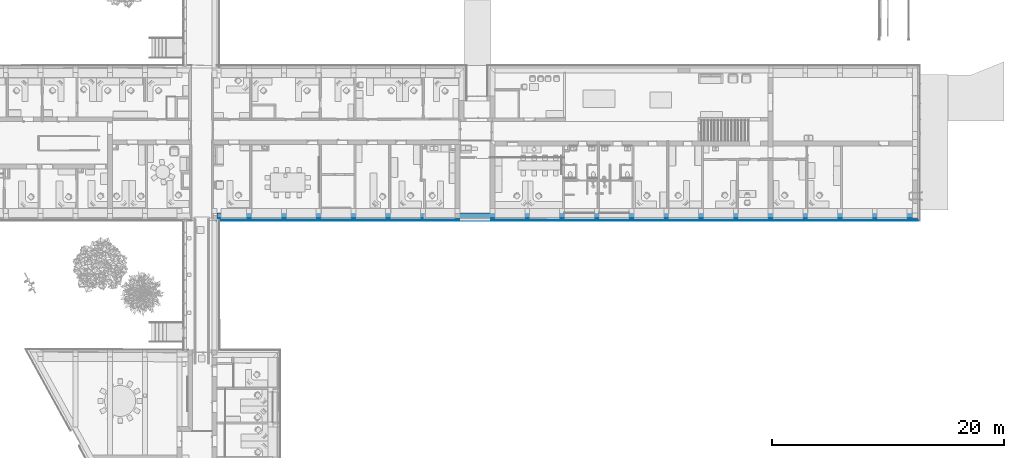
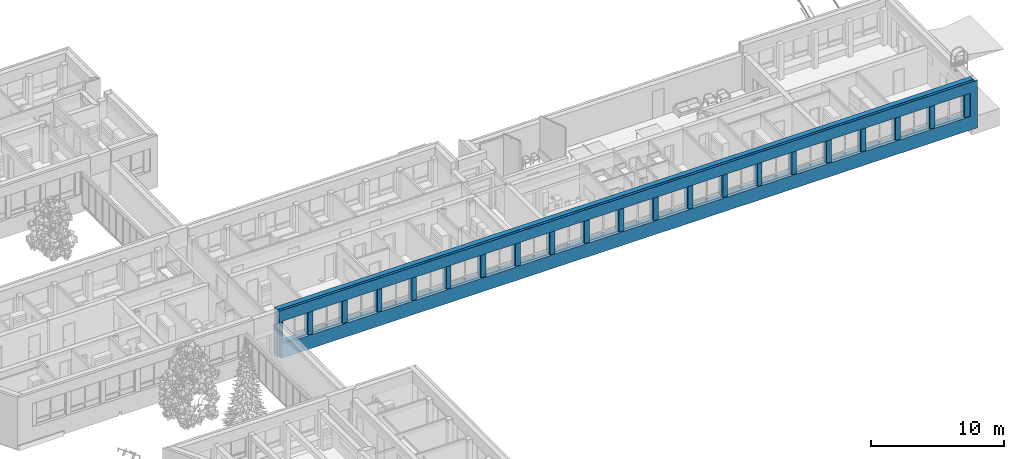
# One storey, part 96 of 194: 3 building element parts, 20 openings, 1 element without a shape of its own.
"""IFC2X3 building model written with IfcOpenShell, lengths in millimetres."""

from ifc_helpers import new_model, entity, si_unit, converted_unit, derived_unit, money_unit, direction, frame, origin_with_axes, origin_2d_with_axis, place, context, subcontext, project, spatial, polyline, rectangle, outline, extrude, boolean, faceted_brep, material, type_object, element, aggregate, save


model = new_model("IFC2X3")

# Units and contexts
model_context = context("Model", 3, precision=1e-05, world=origin_with_axes(), true_north=direction((0.0, 1.0)))
body_context = subcontext(model_context, "Body", "Model", "MODEL_VIEW")
ifc_project = project(units=[si_unit("LENGTHUNIT", "METRE", prefix="MILLI"), si_unit("AREAUNIT", "SQUARE_METRE"), si_unit("VOLUMEUNIT", "CUBIC_METRE"), converted_unit("PLANEANGLEUNIT", "DEGREE", entity("IfcPlaneAngleMeasure", 0.0174532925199), si_unit("PLANEANGLEUNIT", "RADIAN"), dimensions=[0, 0, 0, 0, 0, 0, 0]), si_unit("SOLIDANGLEUNIT", "STERADIAN"), money_unit("EUR"), converted_unit("TIMEUNIT", "Year", entity("IfcTimeMeasure", 31556926.0), si_unit("TIMEUNIT", "SECOND"), dimensions=[0, 0, 1, 0, 0, 0, 0]), si_unit("MASSUNIT", "GRAM", prefix="KILO"), si_unit("THERMODYNAMICTEMPERATUREUNIT", "DEGREE_CELSIUS"), si_unit("LUMINOUSINTENSITYUNIT", "LUMEN"), si_unit("ENERGYUNIT", "JOULE", prefix="MEGA"), derived_unit("THERMALCONDUCTANCEUNIT", [(si_unit("POWERUNIT", "WATT"), 1), (si_unit("LENGTHUNIT", "METRE"), -1), (si_unit("THERMODYNAMICTEMPERATUREUNIT", "KELVIN"), -1)]), derived_unit("SPECIFICHEATCAPACITYUNIT", [(si_unit("ENERGYUNIT", "JOULE"), 1), (si_unit("MASSUNIT", "GRAM", prefix="KILO"), -1), (si_unit("THERMODYNAMICTEMPERATUREUNIT", "KELVIN"), -1)]), derived_unit("MASSDENSITYUNIT", [(si_unit("MASSUNIT", "GRAM", prefix="KILO"), 1), (si_unit("VOLUMEUNIT", "CUBIC_METRE"), -1)])], contexts=[model_context])

# Site, building, storey
site_placement = place(None, origin_with_axes())
site = spatial("IfcSite", under=ifc_project, at=site_placement, Name="Site", CompositionType="ELEMENT")
building_placement = place(site_placement, origin_with_axes())
building = spatial("IfcBuilding", under=site, at=building_placement, Name="Building", CompositionType="ELEMENT")
storey_placement = place(building_placement, frame((0.0, 0.0, 3000.0), z_axis=(0.0, 0.0, 1.0), x_axis=(1.0, 0.0, 0.0)))
storey = spatial("IfcBuildingStorey", under=building, at=storey_placement, Name="2 KORRUS", CompositionType="ELEMENT", Elevation=3000.0)

# Wall, openings, building element parts
wall_type = type_object("IfcWallType", Name="VS4", PredefinedType="NOTDEFINED")
wall_placement = place(storey_placement, frame((40164.4429588, 34351.5716531, -400.0), z_axis=(0.0, 0.0, 1.0), x_axis=(0.999999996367, 8.52438456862e-05, 0.0)))
wall = element("IfcWall", 1, at=wall_placement, inside=storey, type_object=wall_type, Name="VS4")
opening_1_placement = place(wall_placement, frame((1470.80210645, 0.0, 1250.0), z_axis=(0.0, 0.0, 1.0), x_axis=(1.0, 0.0, 0.0)))
element("IfcOpeningElement", 2, at=opening_1_placement, cuts=wall, Name="välisaken * Double Window 22", context=body_context, shape_type="SweptSolid", body=[
    extrude(rectangle(XDim=2200.0, YDim=2100.0, at=origin_2d_with_axis()), frame((0.0, -20.0000000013, 1050.0), z_axis=(0.0, 1.0, 0.0), x_axis=(-1.0, 0.0, 0.0)), (0.0, 0.0, 1.0), 1100.0),
    extrude(rectangle(XDim=2200.0, YDim=2100.0, at=origin_2d_with_axis()), frame((1.13686837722e-10, -20.0000000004, 1050.0), z_axis=(0.0, -1.0, 0.0), x_axis=(-1.0, 0.0, 0.0)), (0.0, 0.0, 1.0), 850.000000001),
])
opening_2_placement = place(wall_placement, frame((4280.7766205, 0.0, 1250.0), z_axis=(0.0, 0.0, 1.0), x_axis=(1.0, 0.0, 0.0)))
element("IfcOpeningElement", 3, at=opening_2_placement, cuts=wall, Name="välisaken * Double Window 22", context=body_context, shape_type="SweptSolid", body=[
    extrude(rectangle(XDim=2580.0, YDim=2100.0, at=origin_2d_with_axis()), frame((0.0, -20.0000000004, 1050.0), z_axis=(0.0, -1.0, 0.0), x_axis=(1.0, 0.0, 0.0)), (0.0, 0.0, -1.0), 1100.0),
    extrude(rectangle(XDim=2580.0, YDim=2100.0, at=origin_2d_with_axis()), frame((0.0, -20.0000000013, 1050.0), z_axis=(0.0, 1.0, 0.0), x_axis=(1.0, 0.0, 0.0)), (0.0, 0.0, -1.0), 850.000000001),
])
opening_3_placement = place(wall_placement, frame((7280.80216551, 0.0, 1250.0), z_axis=(0.0, 0.0, 1.0), x_axis=(1.0, 0.0, 0.0)))
element("IfcOpeningElement", 4, at=opening_3_placement, cuts=wall, Name="välisaken * Double Window 22", context=body_context, shape_type="SweptSolid", body=[
    extrude(rectangle(XDim=2580.0, YDim=2100.0, at=origin_2d_with_axis()), frame((0.0, -20.0000000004, 1050.0), z_axis=(0.0, -1.0, 0.0), x_axis=(1.0, 0.0, 0.0)), (0.0, 0.0, -1.0), 1100.0),
    extrude(rectangle(XDim=2580.0, YDim=2100.0, at=origin_2d_with_axis()), frame((-1.13686837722e-10, -20.0000000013, 1050.0), z_axis=(0.0, 1.0, 0.0), x_axis=(1.0, 0.0, 0.0)), (0.0, 0.0, -1.0), 850.000000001),
])
opening_4_placement = place(wall_placement, frame((10280.7766423, 0.0, 1250.0), z_axis=(0.0, 0.0, 1.0), x_axis=(1.0, 0.0, 0.0)))
element("IfcOpeningElement", 5, at=opening_4_placement, cuts=wall, Name="välisaken * Double Window 22", context=body_context, shape_type="SweptSolid", body=[
    extrude(rectangle(XDim=2580.0, YDim=2100.0, at=origin_2d_with_axis()), frame((1.13686837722e-10, -20.0000000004, 1050.0), z_axis=(0.0, -1.0, 0.0), x_axis=(1.0, 0.0, 0.0)), (0.0, 0.0, -1.0), 1100.0),
    extrude(rectangle(XDim=2580.0, YDim=2100.0, at=origin_2d_with_axis()), frame((1.13686837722e-10, -20.0000000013, 1050.0), z_axis=(0.0, 1.0, 0.0), x_axis=(1.0, 0.0, 0.0)), (0.0, 0.0, -1.0), 850.000000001),
])
opening_5_placement = place(wall_placement, frame((13280.7766532, 0.0, 1250.0), z_axis=(0.0, 0.0, 1.0), x_axis=(1.0, 0.0, 0.0)))
element("IfcOpeningElement", 6, at=opening_5_placement, cuts=wall, Name="välisaken * Double Window 22", context=body_context, shape_type="SweptSolid", body=[
    extrude(rectangle(XDim=2580.0, YDim=2100.0, at=origin_2d_with_axis()), frame((1.13686837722e-10, -20.0000000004, 1050.0), z_axis=(0.0, -1.0, 0.0), x_axis=(1.0, 0.0, 0.0)), (0.0, 0.0, -1.0), 1100.0),
    extrude(rectangle(XDim=2580.0, YDim=2100.0, at=origin_2d_with_axis()), frame((0.0, -20.0000000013, 1050.0), z_axis=(0.0, 1.0, 0.0), x_axis=(1.0, 0.0, 0.0)), (0.0, 0.0, -1.0), 850.000000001),
])
opening_6_placement = place(wall_placement, frame((16280.8824814, 0.0, 1250.0), z_axis=(0.0, 0.0, 1.0), x_axis=(1.0, 0.0, 0.0)))
element("IfcOpeningElement", 7, at=opening_6_placement, cuts=wall, Name="välisaken * Double Window 22", context=body_context, shape_type="SweptSolid", body=[
    extrude(rectangle(XDim=2580.0, YDim=2100.0, at=origin_2d_with_axis()), frame((0.0, -20.0000000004, 1050.0), z_axis=(0.0, -1.0, 0.0), x_axis=(1.0, 0.0, 0.0)), (0.0, 0.0, -1.0), 1100.0),
    extrude(rectangle(XDim=2580.0, YDim=2100.0, at=origin_2d_with_axis()), frame((0.0, -20.0000000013, 1050.0), z_axis=(0.0, 1.0, 0.0), x_axis=(1.0, 0.0, 0.0)), (0.0, 0.0, -1.0), 850.000000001),
])
opening_7_placement = place(wall_placement, frame((19280.8474199, 0.0, 1250.0), z_axis=(0.0, 0.0, 1.0), x_axis=(1.0, 0.0, 0.0)))
element("IfcOpeningElement", 8, at=opening_7_placement, cuts=wall, Name="välisaken * Double Window 22", context=body_context, shape_type="SweptSolid", body=[
    extrude(rectangle(XDim=2580.0, YDim=2100.0, at=origin_2d_with_axis()), frame((0.0, -20.0000000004, 1050.0), z_axis=(0.0, -1.0, 0.0), x_axis=(1.0, 0.0, 0.0)), (0.0, 0.0, -1.0), 1100.0),
    extrude(rectangle(XDim=2580.0, YDim=2100.0, at=origin_2d_with_axis()), frame((0.0, -20.0000000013, 1050.0), z_axis=(0.0, 1.0, 0.0), x_axis=(1.0, 0.0, 0.0)), (0.0, 0.0, -1.0), 850.000000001),
])
opening_8_placement = place(wall_placement, frame((22280.7766859, 0.0, 1250.0), z_axis=(0.0, 0.0, 1.0), x_axis=(1.0, 0.0, 0.0)))
element("IfcOpeningElement", 9, at=opening_8_placement, cuts=wall, Name="välisaken * Double Window 22", context=body_context, shape_type="SweptSolid", body=[
    extrude(rectangle(XDim=2580.0, YDim=2100.0, at=origin_2d_with_axis()), frame((0.0, -20.0000000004, 1050.0), z_axis=(0.0, -1.0, 0.0), x_axis=(1.0, 0.0, 0.0)), (0.0, 0.0, -1.0), 1100.0),
    extrude(rectangle(XDim=2580.0, YDim=2100.0, at=origin_2d_with_axis()), frame((-1.13686837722e-10, -20.0000000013, 1050.0), z_axis=(0.0, 1.0, 0.0), x_axis=(1.0, 0.0, 0.0)), (0.0, 0.0, -1.0), 850.000000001),
])
opening_9_placement = place(wall_placement, frame((25282.9551638, 0.0, 1250.0), z_axis=(0.0, 0.0, 1.0), x_axis=(1.0, 0.0, 0.0)))
element("IfcOpeningElement", 10, at=opening_9_placement, cuts=wall, Name="välisaken * Double Window 22", context=body_context, shape_type="SweptSolid", body=[
    extrude(rectangle(XDim=2580.0, YDim=2100.0, at=origin_2d_with_axis()), frame((0.0, -19.9999999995, 1050.0), z_axis=(0.0, -1.0, 0.0), x_axis=(1.0, 0.0, 0.0)), (0.0, 0.0, -1.0), 1100.0),
    extrude(rectangle(XDim=2580.0, YDim=2100.0, at=origin_2d_with_axis()), frame((-1.13686837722e-10, -20.0000000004, 1050.0), z_axis=(0.0, 1.0, 0.0), x_axis=(1.0, 0.0, 0.0)), (0.0, 0.0, -1.0), 850.000000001),
])
opening_10_placement = place(wall_placement, frame((28283.3175719, 0.0, 1250.0), z_axis=(0.0, 0.0, 1.0), x_axis=(1.0, 0.0, 0.0)))
element("IfcOpeningElement", 11, at=opening_10_placement, cuts=wall, Name="välisaken * Double Window 22", context=body_context, shape_type="SweptSolid", body=[
    extrude(rectangle(XDim=2580.0, YDim=2100.0, at=origin_2d_with_axis()), frame((0.0, -20.0000000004, 1050.0), z_axis=(0.0, -1.0, 0.0), x_axis=(1.0, 0.0, 0.0)), (0.0, 0.0, -1.0), 1100.0),
    extrude(rectangle(XDim=2580.0, YDim=2100.0, at=origin_2d_with_axis()), frame((-1.13686837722e-10, -20.0000000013, 1050.0), z_axis=(0.0, 1.0, 0.0), x_axis=(1.0, 0.0, 0.0)), (0.0, 0.0, -1.0), 850.000000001),
])
opening_11_placement = place(wall_placement, frame((31282.9805453, 0.0, 1250.0), z_axis=(0.0, 0.0, 1.0), x_axis=(1.0, 0.0, 0.0)))
element("IfcOpeningElement", 12, at=opening_11_placement, cuts=wall, Name="välisaken * Double Window 22", context=body_context, shape_type="SweptSolid", body=[
    extrude(rectangle(XDim=2580.0, YDim=2100.0, at=origin_2d_with_axis()), frame((0.0, -19.9999999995, 1050.0), z_axis=(0.0, -1.0, 0.0), x_axis=(1.0, 0.0, 0.0)), (0.0, 0.0, -1.0), 1100.0),
    extrude(rectangle(XDim=2580.0, YDim=2100.0, at=origin_2d_with_axis()), frame((0.0, -20.0000000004, 1050.0), z_axis=(0.0, 1.0, 0.0), x_axis=(1.0, 0.0, 0.0)), (0.0, 0.0, -1.0), 850.000000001),
])
opening_12_placement = place(wall_placement, frame((34282.9805344, 0.0, 1250.0), z_axis=(0.0, 0.0, 1.0), x_axis=(1.0, 0.0, 0.0)))
element("IfcOpeningElement", 13, at=opening_12_placement, cuts=wall, Name="välisaken * Double Window 22", context=body_context, shape_type="SweptSolid", body=[
    extrude(rectangle(XDim=2580.0, YDim=2100.0, at=origin_2d_with_axis()), frame((0.0, -20.0000000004, 1050.0), z_axis=(0.0, -1.0, 0.0), x_axis=(1.0, 0.0, 0.0)), (0.0, 0.0, -1.0), 1100.0),
    extrude(rectangle(XDim=2580.0, YDim=2100.0, at=origin_2d_with_axis()), frame((-1.13686837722e-10, -20.0000000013, 1050.0), z_axis=(0.0, 1.0, 0.0), x_axis=(1.0, 0.0, 0.0)), (0.0, 0.0, -1.0), 850.000000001),
])
opening_13_placement = place(wall_placement, frame((37282.9805235, 0.0, 1250.0), z_axis=(0.0, 0.0, 1.0), x_axis=(1.0, 0.0, 0.0)))
element("IfcOpeningElement", 14, at=opening_13_placement, cuts=wall, Name="välisaken * Double Window 22", context=body_context, shape_type="SweptSolid", body=[
    extrude(rectangle(XDim=2580.0, YDim=2100.0, at=origin_2d_with_axis()), frame((0.0, -20.0000000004, 1050.0), z_axis=(0.0, -1.0, 0.0), x_axis=(1.0, 0.0, 0.0)), (0.0, 0.0, -1.0), 1100.0),
    extrude(rectangle(XDim=2580.0, YDim=2100.0, at=origin_2d_with_axis()), frame((1.13686837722e-10, -20.0000000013, 1050.0), z_axis=(0.0, 1.0, 0.0), x_axis=(1.0, 0.0, 0.0)), (0.0, 0.0, -1.0), 850.000000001),
])
opening_14_placement = place(wall_placement, frame((40282.9805126, 0.0, 1250.0), z_axis=(0.0, 0.0, 1.0), x_axis=(1.0, 0.0, 0.0)))
element("IfcOpeningElement", 15, at=opening_14_placement, cuts=wall, Name="välisaken * Double Window 22", context=body_context, shape_type="SweptSolid", body=[
    extrude(rectangle(XDim=2580.0, YDim=2100.0, at=origin_2d_with_axis()), frame((0.0, -20.0000000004, 1050.0), z_axis=(0.0, -1.0, 0.0), x_axis=(1.0, 0.0, 0.0)), (0.0, 0.0, -1.0), 1100.0),
    extrude(rectangle(XDim=2580.0, YDim=2100.0, at=origin_2d_with_axis()), frame((-1.13686837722e-10, -20.0000000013, 1050.0), z_axis=(0.0, 1.0, 0.0), x_axis=(1.0, 0.0, 0.0)), (0.0, 0.0, -1.0), 850.000000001),
])
opening_15_placement = place(wall_placement, frame((43282.9552292, 0.0, 1250.0), z_axis=(0.0, 0.0, 1.0), x_axis=(1.0, 0.0, 0.0)))
element("IfcOpeningElement", 16, at=opening_15_placement, cuts=wall, Name="välisaken * Double Window 22", context=body_context, shape_type="SweptSolid", body=[
    extrude(rectangle(XDim=2580.0, YDim=2100.0, at=origin_2d_with_axis()), frame((1.13686837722e-10, -20.0000000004, 1050.0), z_axis=(0.0, -1.0, 0.0), x_axis=(1.0, 0.0, 0.0)), (0.0, 0.0, -1.0), 1100.0),
    extrude(rectangle(XDim=2580.0, YDim=2100.0, at=origin_2d_with_axis()), frame((0.0, -20.0000000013, 1050.0), z_axis=(0.0, 1.0, 0.0), x_axis=(1.0, 0.0, 0.0)), (0.0, 0.0, -1.0), 850.000000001),
])
opening_16_placement = place(wall_placement, frame((46282.5729695, 0.0, 1250.0), z_axis=(0.0, 0.0, 1.0), x_axis=(1.0, 0.0, 0.0)))
element("IfcOpeningElement", 17, at=opening_16_placement, cuts=wall, Name="välisaken * Double Window 22", context=body_context, shape_type="SweptSolid", body=[
    extrude(rectangle(XDim=2580.0, YDim=2100.0, at=origin_2d_with_axis()), frame((-1.13686837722e-10, -20.0000000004, 1050.0), z_axis=(0.0, -1.0, 0.0), x_axis=(1.0, 0.0, 0.0)), (0.0, 0.0, -1.0), 1100.0),
    extrude(rectangle(XDim=2580.0, YDim=2100.0, at=origin_2d_with_axis()), frame((0.0, -20.0000000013, 1050.0), z_axis=(0.0, 1.0, 0.0), x_axis=(1.0, 0.0, 0.0)), (0.0, 0.0, -1.0), 850.000000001),
])
opening_17_placement = place(wall_placement, frame((49282.955251, 0.0, 1250.0), z_axis=(0.0, 0.0, 1.0), x_axis=(1.0, 0.0, 0.0)))
element("IfcOpeningElement", 18, at=opening_17_placement, cuts=wall, Name="välisaken * Double Window 22", context=body_context, shape_type="SweptSolid", body=[
    extrude(rectangle(XDim=2580.0, YDim=2100.0, at=origin_2d_with_axis()), frame((1.13686837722e-10, -20.0000000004, 1050.0), z_axis=(0.0, -1.0, 0.0), x_axis=(1.0, 0.0, 0.0)), (0.0, 0.0, -1.0), 1100.0),
    extrude(rectangle(XDim=2580.0, YDim=2100.0, at=origin_2d_with_axis()), frame((-1.13686837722e-10, -20.0000000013, 1050.0), z_axis=(0.0, 1.0, 0.0), x_axis=(1.0, 0.0, 0.0)), (0.0, 0.0, -1.0), 850.000000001),
])
opening_18_placement = place(wall_placement, frame((52281.2877571, 0.0, 1250.0), z_axis=(0.0, 0.0, 1.0), x_axis=(1.0, 0.0, 0.0)))
element("IfcOpeningElement", 19, at=opening_18_placement, cuts=wall, Name="välisaken * Double Window 22", context=body_context, shape_type="SweptSolid", body=[
    extrude(rectangle(XDim=2580.0, YDim=2100.0, at=origin_2d_with_axis()), frame((1.13686837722e-10, -20.0000000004, 1050.0), z_axis=(0.0, -1.0, 0.0), x_axis=(1.0, 0.0, 0.0)), (0.0, 0.0, -1.0), 1100.0),
    extrude(rectangle(XDim=2580.0, YDim=2100.0, at=origin_2d_with_axis()), frame((0.0, -20.0000000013, 1050.0), z_axis=(0.0, 1.0, 0.0), x_axis=(1.0, 0.0, 0.0)), (0.0, 0.0, -1.0), 850.000000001),
])
opening_19_placement = place(wall_placement, frame((55282.9552728, 9.09494701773e-10, 1250.0), z_axis=(0.0, 0.0, 1.0), x_axis=(1.0, 0.0, 0.0)))
element("IfcOpeningElement", 20, at=opening_19_placement, cuts=wall, Name="välisaken * Double Window 22", context=body_context, shape_type="SweptSolid", body=[
    extrude(rectangle(XDim=2580.0, YDim=2100.0, at=origin_2d_with_axis()), frame((1.13686837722e-10, -20.0000000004, 1050.0), z_axis=(0.0, -1.0, 0.0), x_axis=(1.0, 0.0, 0.0)), (0.0, 0.0, -1.0), 1100.0),
    extrude(rectangle(XDim=2580.0, YDim=2100.0, at=origin_2d_with_axis()), frame((1.13686837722e-10, -20.0000000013, 1050.0), z_axis=(0.0, 1.0, 0.0), x_axis=(1.0, 0.0, 0.0)), (0.0, 0.0, -1.0), 850.000000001),
])
opening_20_placement = place(wall_placement, frame((58282.7311824, 0.0, 1250.0), z_axis=(0.0, 0.0, 1.0), x_axis=(1.0, 0.0, 0.0)))
element("IfcOpeningElement", 21, at=opening_20_placement, cuts=wall, Name="välisaken * Double Window 22", context=body_context, shape_type="SweptSolid", body=[
    extrude(rectangle(XDim=2580.0, YDim=2100.0, at=origin_2d_with_axis()), frame((1.13686837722e-10, -20.0000000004, 1050.0), z_axis=(0.0, -1.0, 0.0), x_axis=(1.0, 0.0, 0.0)), (0.0, 0.0, -1.0), 1100.0),
    extrude(rectangle(XDim=2580.0, YDim=2100.0, at=origin_2d_with_axis()), frame((-1.13686837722e-10, -20.0000000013, 1050.0), z_axis=(0.0, 1.0, 0.0), x_axis=(1.0, 0.0, 0.0)), (0.0, 0.0, -1.0), 850.000000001),
])
ifc_material_1 = material(Name="Tellis - Konstuktsioon")
building_element_part_1_placement = place(wall_placement, origin_with_axes())
building_element_part_1 = element("IfcBuildingElementPart", 22, at=building_element_part_1_placement, material=ifc_material_1, Name="Tellis - Konstuktsioon", context=body_context, shape_type="CSG", body=[
    boolean("DIFFERENCE", boolean("DIFFERENCE", boolean("DIFFERENCE", boolean("DIFFERENCE", boolean("DIFFERENCE", boolean("DIFFERENCE", extrude(outline(polyline([(-430.166397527, 0.0), (60682.70542, 0.0), (60682.70542, 429.999999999), (-430.166397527, 429.999999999), (-430.166397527, 0.0)])), origin_with_axes(), (0.0, 0.0, 1.0), 4400.0), faceted_brep([(0.0, 0.0, 4400.0), (0.0, 430.0, 4400.0), (-430.166397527, 429.999999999, 4400.0), (-430.166397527, 0.0, 4400.0), (0.0, 430.0, 3300.0), (-1.13686837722e-10, 0.0, 3300.0), (-0.166365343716, 430.0, 3300.0), (-0.166365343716, 430.0, 0.0), (-430.166397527, 429.999999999, 0.0), (-430.166397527, 0.0, 0.0), (-1.13686837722e-10, 0.0, 0.0)], [[[0, 1, 2, 3]], [[4, 1, 0, 5]], [[6, 7, 8, 2, 1, 4]], [[9, 3, 2, 8]], [[5, 0, 3, 9, 10]], [[6, 4, 5]], [[5, 10, 7, 6]], [[7, 10, 9, 8]]])), faceted_brep([(60032.6607425, 429.999999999, 4380.0), (60462.6902984, 429.999999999, 4380.0), (60462.6902984, 429.999999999, 4399.99999851), (60682.70542, 429.999999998, 4400.0), (60682.70542, 429.999999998, 0.0), (60032.6607425, 429.999999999, 0.0), (60032.6902974, 0.0, 4380.0), (60462.6902984, 0.0, 4380.0), (60462.6902984, 0.0, 4399.99999851), (60682.70542, 0.0, 4400.0), (60682.70542, 0.0, 0.0), (60032.6902974, 0.0, 0.0)], [[[0, 1, 2, 3, 4, 5]], [[1, 0, 6, 7]], [[8, 2, 1, 7]], [[2, 8, 9, 3]], [[4, 3, 9, 10]], [[11, 5, 4, 10]], [[0, 5, 11, 6]], [[6, 11, 10, 9, 8, 7]]])), faceted_brep([(37261.8606984, -200.000043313, 1280.0), (60049.062136, -200.000012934, 1280.0), (60049.062136, -199.99991592, 3380.0), (334.07922555, -200.003025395, 3380.0), (334.079225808, -200.000006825, 3302.40152179), (334.079225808, -200.000000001, 1280.0), (334.081308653, -175.566040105, 1280.0), (60049.063785, -180.656374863, 1280.0), (60049.063785, -180.656374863, 3380.0), (334.081308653, -175.566040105, 3380.0)], [[[0, 1, 2, 3, 4, 5]], [[1, 0, 5, 6, 7]], [[2, 1, 7, 8]], [[2, 8, 9, 3]], [[3, 9, 6, 5, 4]], [[9, 8, 7, 6]]])), faceted_brep([(200.000014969, -9.09494701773e-10, 3300.0), (200.000014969, -9.09494701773e-10, 0.0), (-430.166397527, 0.0, 0.0), (-430.166397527, 0.0, 4400.0), (60682.70542, 0.0, 4400.0), (60682.70542, 0.0, 0.0), (60462.6902984, 0.0, 0.0), (60462.6902984, 0.0, 4380.0), (3.08091330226e-08, -0.0430836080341, 4380.0), (-1.13686837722e-10, 0.0, 3300.0), (200.077394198, -200.0, 3300.0), (200.077394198, -200.000000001, 0.0), (-430.166397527, -200.0, 0.0), (-430.166397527, -200.0, 4400.0), (60682.70542, -200.0, 4400.0), (60682.70542, -200.0, 0.0), (60462.7040448, -200.0, 0.0), (60462.6902984, -199.999861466, 4380.0), (3.08091330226e-08, -200.043083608, 4380.0), (-1.13686837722e-10, -200.000000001, 3300.0)], [[[0, 1, 2, 3, 4, 5, 6, 7, 8, 9]], [[1, 0, 10, 11]], [[1, 11, 12, 2]], [[12, 13, 3, 2]], [[14, 4, 3, 13]], [[5, 4, 14, 15]], [[16, 6, 5, 15]], [[7, 6, 16]], [[7, 17, 18, 8]], [[9, 8, 18, 19]], [[0, 9, 19, 10]], [[17, 16, 15, 14, 13, 12, 11, 10, 19, 18]], [[17, 7, 16]]])), faceted_brep([(334.077520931, -220.0, 1280.0), (60049.0604312, -219.999960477, 1280.0), (60049.0604312, -219.99989389, 3380.0), (334.07752068, -220.002952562, 3380.0), (42934.7905343, -200.012540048, 1280.0), (60049.062136, -200.000305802, 1280.0), (334.079225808, -200.0, 1280.0), (60049.062136, -200.000205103, 3380.0), (334.079225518, -200.003401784, 3380.0), (334.079225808, -199.999999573, 3294.33645289)], [[[0, 1, 2, 3]], [[4, 5, 1, 0, 6]], [[5, 7, 2, 1]], [[7, 8, 3, 2]], [[8, 9, 6, 0, 3]], [[8, 7, 5, 4, 6, 9]]])), faceted_brep([(220.077395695, -200.000000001, 3300.0), (220.077395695, -200.000000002, 0.0), (-430.166397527, -200.0, 0.0), (-430.166397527, -200.0, 4400.0), (60682.70542, -200.0, 4400.0), (60682.70542, -200.0, 0.0), (60662.7040453, -200.0, 0.0), (60662.7040453, -200.0, 4380.0), (60462.6902984, -199.999861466, 4380.0), (3.08091330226e-08, -200.043083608, 4380.0), (-1.13686837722e-10, -200.000000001, 3300.0), (220.085133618, -220.000000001, 3300.0), (220.085133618, -220.000000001, 0.0), (-430.166397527, -220.0, 0.0), (-430.166397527, -220.0, 4400.0), (60682.70542, -220.0, 4400.0), (60682.70542, -220.0, 0.0), (60662.7054199, -220.000000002, 0.0), (60662.7054199, -219.99971945, 4380.0), (60462.6902984, -219.999861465, 4380.0), (3.06954461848e-08, -220.043083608, 4380.0), (-1.13686837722e-10, -220.0, 3300.0)], [[[0, 1, 2, 3, 4, 5, 6, 7, 8, 9, 10]], [[0, 11, 12, 1]], [[1, 12, 13, 2]], [[13, 14, 3, 2]], [[15, 4, 3, 14]], [[5, 4, 15, 16]], [[17, 6, 5, 16]], [[7, 6, 17, 18]], [[8, 7, 18, 19]], [[9, 8, 19, 20]], [[10, 9, 20, 21]], [[0, 10, 21, 11]], [[18, 17, 16, 15, 14, 13, 12, 11, 21, 20, 19]]])),
])
ifc_material_2 = material(Name="Soojustus - Plastik Kõva")
building_element_part_2_placement = place(wall_placement, origin_with_axes())
building_element_part_2 = element("IfcBuildingElementPart", 23, at=building_element_part_2_placement, material=ifc_material_2, Name="Soojustus - Plastik Kõva", context=body_context, shape_type="CSG", body=[
    boolean("DIFFERENCE", boolean("DIFFERENCE", boolean("DIFFERENCE", boolean("DIFFERENCE", boolean("DIFFERENCE", boolean("DIFFERENCE", extrude(outline(polyline([(-430.166397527, -200.0), (60682.70542, -200.0), (60682.70542, 0.0), (-430.166397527, 0.0), (-430.166397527, -200.0)])), origin_with_axes(), (0.0, 0.0, 1.0), 4400.0), faceted_brep([(0.0, 0.0, 4400.0), (0.0, 430.0, 4400.0), (-430.166397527, 429.999999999, 4400.0), (-430.166397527, 0.0, 4400.0), (0.0, 430.0, 3300.0), (-1.13686837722e-10, 0.0, 3300.0), (-0.166365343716, 430.0, 3300.0), (-0.166365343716, 430.0, 0.0), (-430.166397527, 429.999999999, 0.0), (-430.166397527, 0.0, 0.0), (-1.13686837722e-10, 0.0, 0.0)], [[[0, 1, 2, 3]], [[4, 1, 0, 5]], [[6, 7, 8, 2, 1, 4]], [[9, 3, 2, 8]], [[5, 0, 3, 9, 10]], [[6, 4, 5]], [[5, 10, 7, 6]], [[7, 10, 9, 8]]])), faceted_brep([(60032.6607425, 429.999999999, 4380.0), (60462.6902984, 429.999999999, 4380.0), (60462.6902984, 429.999999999, 4399.99999851), (60682.70542, 429.999999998, 4400.0), (60682.70542, 429.999999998, 0.0), (60032.6607425, 429.999999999, 0.0), (60032.6902974, 0.0, 4380.0), (60462.6902984, 0.0, 4380.0), (60462.6902984, 0.0, 4399.99999851), (60682.70542, 0.0, 4400.0), (60682.70542, 0.0, 0.0), (60032.6902974, 0.0, 0.0)], [[[0, 1, 2, 3, 4, 5]], [[1, 0, 6, 7]], [[8, 2, 1, 7]], [[2, 8, 9, 3]], [[4, 3, 9, 10]], [[11, 5, 4, 10]], [[0, 5, 11, 6]], [[6, 11, 10, 9, 8, 7]]])), faceted_brep([(37261.8606984, -200.000043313, 1280.0), (60049.062136, -200.000012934, 1280.0), (60049.062136, -199.99991592, 3380.0), (334.07922555, -200.003025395, 3380.0), (334.079225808, -200.000006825, 3302.40152179), (334.079225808, -200.000000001, 1280.0), (334.081308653, -175.566040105, 1280.0), (60049.063785, -180.656374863, 1280.0), (60049.063785, -180.656374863, 3380.0), (334.081308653, -175.566040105, 3380.0)], [[[0, 1, 2, 3, 4, 5]], [[1, 0, 5, 6, 7]], [[2, 1, 7, 8]], [[2, 8, 9, 3]], [[3, 9, 6, 5, 4]], [[9, 8, 7, 6]]])), faceted_brep([(200.000014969, -9.09494701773e-10, 3300.0), (200.000014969, -9.09494701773e-10, 0.0), (-430.166397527, 0.0, 0.0), (-430.166397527, 0.0, 4400.0), (60682.70542, 0.0, 4400.0), (60682.70542, 0.0, 0.0), (60462.6902984, 0.0, 0.0), (60462.6902984, 0.0, 4380.0), (3.08091330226e-08, -0.0430836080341, 4380.0), (-1.13686837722e-10, 0.0, 3300.0), (200.077394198, -200.0, 3300.0), (200.077394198, -200.000000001, 0.0), (-430.166397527, -200.0, 0.0), (-430.166397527, -200.0, 4400.0), (60682.70542, -200.0, 4400.0), (60682.70542, -200.0, 0.0), (60462.7040448, -200.0, 0.0), (60462.6902984, -199.999861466, 4380.0), (3.08091330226e-08, -200.043083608, 4380.0), (-1.13686837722e-10, -200.000000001, 3300.0)], [[[0, 1, 2, 3, 4, 5, 6, 7, 8, 9]], [[1, 0, 10, 11]], [[1, 11, 12, 2]], [[12, 13, 3, 2]], [[14, 4, 3, 13]], [[5, 4, 14, 15]], [[16, 6, 5, 15]], [[7, 6, 16]], [[7, 17, 18, 8]], [[9, 8, 18, 19]], [[0, 9, 19, 10]], [[17, 16, 15, 14, 13, 12, 11, 10, 19, 18]], [[17, 7, 16]]])), faceted_brep([(334.077520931, -220.0, 1280.0), (60049.0604312, -219.999960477, 1280.0), (60049.0604312, -219.99989389, 3380.0), (334.07752068, -220.002952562, 3380.0), (42934.7905343, -200.012540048, 1280.0), (60049.062136, -200.000305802, 1280.0), (334.079225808, -200.0, 1280.0), (60049.062136, -200.000205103, 3380.0), (334.079225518, -200.003401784, 3380.0), (334.079225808, -199.999999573, 3294.33645289)], [[[0, 1, 2, 3]], [[4, 5, 1, 0, 6]], [[5, 7, 2, 1]], [[7, 8, 3, 2]], [[8, 9, 6, 0, 3]], [[8, 7, 5, 4, 6, 9]]])), faceted_brep([(220.077395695, -200.000000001, 3300.0), (220.077395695, -200.000000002, 0.0), (-430.166397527, -200.0, 0.0), (-430.166397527, -200.0, 4400.0), (60682.70542, -200.0, 4400.0), (60682.70542, -200.0, 0.0), (60662.7040453, -200.0, 0.0), (60662.7040453, -200.0, 4380.0), (60462.6902984, -199.999861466, 4380.0), (3.08091330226e-08, -200.043083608, 4380.0), (-1.13686837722e-10, -200.000000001, 3300.0), (220.085133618, -220.000000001, 3300.0), (220.085133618, -220.000000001, 0.0), (-430.166397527, -220.0, 0.0), (-430.166397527, -220.0, 4400.0), (60682.70542, -220.0, 4400.0), (60682.70542, -220.0, 0.0), (60662.7054199, -220.000000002, 0.0), (60662.7054199, -219.99971945, 4380.0), (60462.6902984, -219.999861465, 4380.0), (3.06954461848e-08, -220.043083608, 4380.0), (-1.13686837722e-10, -220.0, 3300.0)], [[[0, 1, 2, 3, 4, 5, 6, 7, 8, 9, 10]], [[0, 11, 12, 1]], [[1, 12, 13, 2]], [[13, 14, 3, 2]], [[15, 4, 3, 14]], [[5, 4, 15, 16]], [[17, 6, 5, 16]], [[7, 6, 17, 18]], [[8, 7, 18, 19]], [[9, 8, 19, 20]], [[10, 9, 20, 21]], [[0, 10, 21, 11]], [[18, 17, 16, 15, 14, 13, 12, 11, 21, 20, 19]]])),
])
ifc_material_3 = material(Name="Tellis - Viimistlus")
building_element_part_3_placement = place(wall_placement, origin_with_axes())
building_element_part_3 = element("IfcBuildingElementPart", 24, at=building_element_part_3_placement, material=ifc_material_3, Name="Tellis - Viimistlus", context=body_context, shape_type="CSG", body=[
    boolean("DIFFERENCE", boolean("DIFFERENCE", boolean("DIFFERENCE", boolean("DIFFERENCE", boolean("DIFFERENCE", boolean("DIFFERENCE", extrude(outline(polyline([(-430.166397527, -220.0), (60682.70542, -220.0), (60682.70542, -200.0), (-430.166397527, -200.0), (-430.166397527, -220.0)])), origin_with_axes(), (0.0, 0.0, 1.0), 4400.0), faceted_brep([(0.0, 0.0, 4400.0), (0.0, 430.0, 4400.0), (-430.166397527, 429.999999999, 4400.0), (-430.166397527, 0.0, 4400.0), (0.0, 430.0, 3300.0), (-1.13686837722e-10, 0.0, 3300.0), (-0.166365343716, 430.0, 3300.0), (-0.166365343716, 430.0, 0.0), (-430.166397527, 429.999999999, 0.0), (-430.166397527, 0.0, 0.0), (-1.13686837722e-10, 0.0, 0.0)], [[[0, 1, 2, 3]], [[4, 1, 0, 5]], [[6, 7, 8, 2, 1, 4]], [[9, 3, 2, 8]], [[5, 0, 3, 9, 10]], [[6, 4, 5]], [[5, 10, 7, 6]], [[7, 10, 9, 8]]])), faceted_brep([(60032.6607425, 429.999999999, 4380.0), (60462.6902984, 429.999999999, 4380.0), (60462.6902984, 429.999999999, 4399.99999851), (60682.70542, 429.999999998, 4400.0), (60682.70542, 429.999999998, 0.0), (60032.6607425, 429.999999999, 0.0), (60032.6902974, 0.0, 4380.0), (60462.6902984, 0.0, 4380.0), (60462.6902984, 0.0, 4399.99999851), (60682.70542, 0.0, 4400.0), (60682.70542, 0.0, 0.0), (60032.6902974, 0.0, 0.0)], [[[0, 1, 2, 3, 4, 5]], [[1, 0, 6, 7]], [[8, 2, 1, 7]], [[2, 8, 9, 3]], [[4, 3, 9, 10]], [[11, 5, 4, 10]], [[0, 5, 11, 6]], [[6, 11, 10, 9, 8, 7]]])), faceted_brep([(37261.8606984, -200.000043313, 1280.0), (60049.062136, -200.000012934, 1280.0), (60049.062136, -199.99991592, 3380.0), (334.07922555, -200.003025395, 3380.0), (334.079225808, -200.000006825, 3302.40152179), (334.079225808, -200.000000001, 1280.0), (334.081308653, -175.566040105, 1280.0), (60049.063785, -180.656374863, 1280.0), (60049.063785, -180.656374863, 3380.0), (334.081308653, -175.566040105, 3380.0)], [[[0, 1, 2, 3, 4, 5]], [[1, 0, 5, 6, 7]], [[2, 1, 7, 8]], [[2, 8, 9, 3]], [[3, 9, 6, 5, 4]], [[9, 8, 7, 6]]])), faceted_brep([(200.000014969, -9.09494701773e-10, 3300.0), (200.000014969, -9.09494701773e-10, 0.0), (-430.166397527, 0.0, 0.0), (-430.166397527, 0.0, 4400.0), (60682.70542, 0.0, 4400.0), (60682.70542, 0.0, 0.0), (60462.6902984, 0.0, 0.0), (60462.6902984, 0.0, 4380.0), (3.08091330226e-08, -0.0430836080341, 4380.0), (-1.13686837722e-10, 0.0, 3300.0), (200.077394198, -200.0, 3300.0), (200.077394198, -200.000000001, 0.0), (-430.166397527, -200.0, 0.0), (-430.166397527, -200.0, 4400.0), (60682.70542, -200.0, 4400.0), (60682.70542, -200.0, 0.0), (60462.7040448, -200.0, 0.0), (60462.6902984, -199.999861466, 4380.0), (3.08091330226e-08, -200.043083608, 4380.0), (-1.13686837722e-10, -200.000000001, 3300.0)], [[[0, 1, 2, 3, 4, 5, 6, 7, 8, 9]], [[1, 0, 10, 11]], [[1, 11, 12, 2]], [[12, 13, 3, 2]], [[14, 4, 3, 13]], [[5, 4, 14, 15]], [[16, 6, 5, 15]], [[7, 6, 16]], [[7, 17, 18, 8]], [[9, 8, 18, 19]], [[0, 9, 19, 10]], [[17, 16, 15, 14, 13, 12, 11, 10, 19, 18]], [[17, 7, 16]]])), faceted_brep([(334.077520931, -220.0, 1280.0), (60049.0604312, -219.999960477, 1280.0), (60049.0604312, -219.99989389, 3380.0), (334.07752068, -220.002952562, 3380.0), (42934.7905343, -200.012540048, 1280.0), (60049.062136, -200.000305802, 1280.0), (334.079225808, -200.0, 1280.0), (60049.062136, -200.000205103, 3380.0), (334.079225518, -200.003401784, 3380.0), (334.079225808, -199.999999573, 3294.33645289)], [[[0, 1, 2, 3]], [[4, 5, 1, 0, 6]], [[5, 7, 2, 1]], [[7, 8, 3, 2]], [[8, 9, 6, 0, 3]], [[8, 7, 5, 4, 6, 9]]])), faceted_brep([(220.077395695, -200.000000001, 3300.0), (220.077395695, -200.000000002, 0.0), (-430.166397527, -200.0, 0.0), (-430.166397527, -200.0, 4400.0), (60682.70542, -200.0, 4400.0), (60682.70542, -200.0, 0.0), (60662.7040453, -200.0, 0.0), (60662.7040453, -200.0, 4380.0), (60462.6902984, -199.999861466, 4380.0), (3.08091330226e-08, -200.043083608, 4380.0), (-1.13686837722e-10, -200.000000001, 3300.0), (220.085133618, -220.000000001, 3300.0), (220.085133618, -220.000000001, 0.0), (-430.166397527, -220.0, 0.0), (-430.166397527, -220.0, 4400.0), (60682.70542, -220.0, 4400.0), (60682.70542, -220.0, 0.0), (60662.7054199, -220.000000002, 0.0), (60662.7054199, -219.99971945, 4380.0), (60462.6902984, -219.999861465, 4380.0), (3.06954461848e-08, -220.043083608, 4380.0), (-1.13686837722e-10, -220.0, 3300.0)], [[[0, 1, 2, 3, 4, 5, 6, 7, 8, 9, 10]], [[0, 11, 12, 1]], [[1, 12, 13, 2]], [[13, 14, 3, 2]], [[15, 4, 3, 14]], [[5, 4, 15, 16]], [[17, 6, 5, 16]], [[7, 6, 17, 18]], [[8, 7, 18, 19]], [[9, 8, 19, 20]], [[10, 9, 20, 21]], [[0, 10, 21, 11]], [[18, 17, 16, 15, 14, 13, 12, 11, 21, 20, 19]]])),
])
aggregate(wall, [building_element_part_1, building_element_part_2, building_element_part_3])

save(model, "model.ifc")
